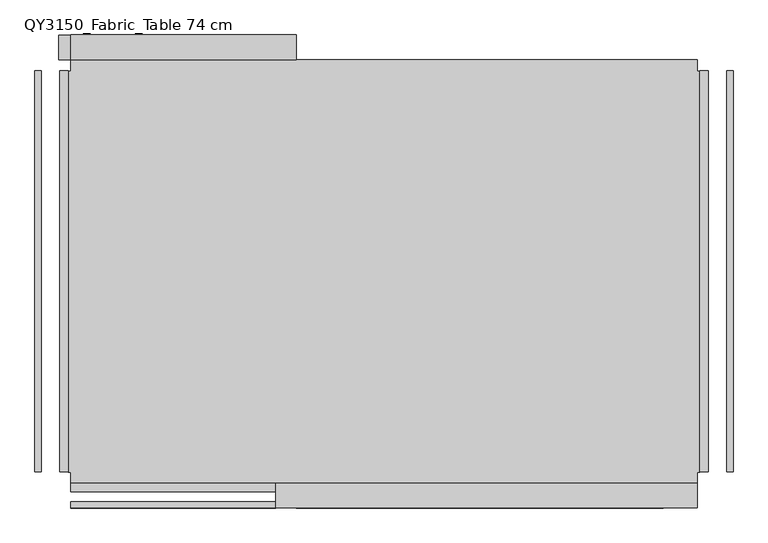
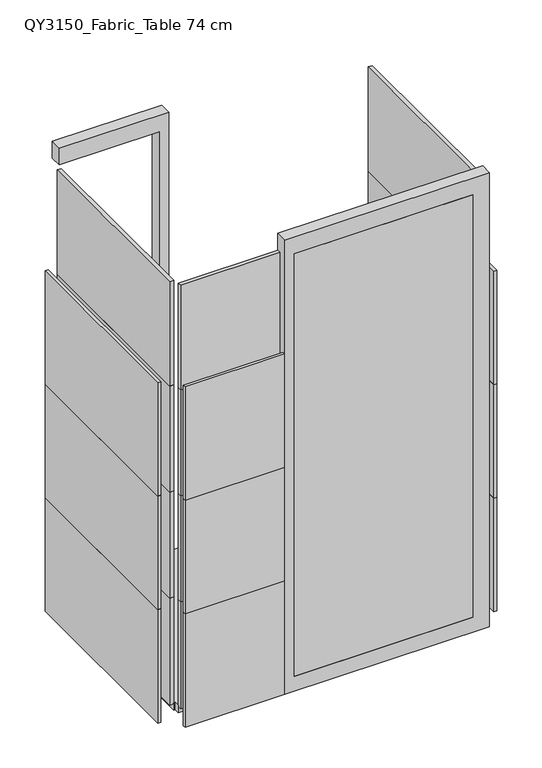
"""IFC4 building model written with IfcOpenShell, lengths in millimetres: furniture geometry, Qyos_150 : QY3150_Fabric_Table 74 cm."""

from ifc_helpers import new_model, si_unit, frame, origin, place, context, project, spatial, polyline, outline, extrude, source, transform, mapped, element, save


def qy3150_fabric_table_74_cm_9a3328c8(model_context):
    return source(origin(), model_context, "Body", "SweptSolid", [
        extrude(outline(polyline([(-607.0, 469.9956819), (-607.0, -470.0), (-647.0, -470.0), (-647.0, 469.9956819), (-607.0, 469.9956819)])), frame((0.0, 0.0, 10.0), z_axis=(0.0, 0.0, 1.0), x_axis=(1.0, 0.0, 0.0)), (0.0, 0.0, 1.0), 37.0),
        extrude(outline(polyline([(-155.0, 469.9956819), (-155.0, -470.0), (-195.0, -470.0), (-195.0, 469.9956819), (-155.0, 469.9956819)])), frame((0.0, 0.0, 10.0), z_axis=(0.0, 0.0, 1.0), x_axis=(1.0, 0.0, 0.0)), (0.0, 0.0, 1.0), 37.0),
        extrude(outline(polyline([(647.0, 469.9956819), (647.0, -470.0), (607.0, -470.0), (607.0, 469.9956819), (647.0, 469.9956819)])), frame((0.0, 0.0, 10.0), z_axis=(0.0, 0.0, 1.0), x_axis=(1.0, 0.0, 0.0)), (0.0, 0.0, 1.0), 37.0),
        extrude(outline(polyline([(2122.1, -239.9562864), (82.0, -239.9562864), (82.0, -722.5536246), (10.0, -722.5536246), (10.0, -194.9250972), (2202.1, -194.9250972), (2202.1, -695.0), (2122.1, -695.0), (2122.1, -239.9562864)])), frame((0.0, 469.9956819, 0.0), z_axis=(0.0, 1.0, 0.0), x_axis=(0.0, 0.0, 1.0)), (0.0, 0.0, 1.0), 55.0043181),
        extrude(outline(polyline([(-701.0, -445.0), (-701.0, 445.0), (-695.0, 445.0), (-695.0, 469.9956819), (695.0, 469.9956819), (695.0, 445.0), (701.0, 445.0), (701.0, -445.0), (695.0, -445.0), (695.0, -470.0), (-695.0, -470.0), (-695.0, -445.0), (-701.0, -445.0)])), frame((0.0, 0.0, 47.0), z_axis=(0.0, 0.0, 1.0), x_axis=(1.0, 0.0, 0.0)), (0.0, 0.0, 1.0), 35.0),
        extrude(outline(polyline([(619.5, -520.0), (619.5, -525.0), (-195.7844354, -525.0), (-195.7844354, -520.0), (619.5, -520.0)])), frame((0.0, 0.0, 82.0), z_axis=(0.0, 0.0, 1.0), x_axis=(1.0, 0.0, 0.0)), (0.0, 0.0, 1.0), 2040.1),
        extrude(outline(polyline([(10.0, -239.9562864), (10.0, 695.0), (2202.1, 695.0), (2202.1, -239.9562864), (10.0, -239.9562864)]), holes=[polyline([(82.0, 619.5), (82.0, -194.9250972), (2122.1, -194.9250972), (2122.1, 619.5), (82.0, 619.5)])]), frame((0.0, -525.0, 0.0), z_axis=(0.0, 1.0, 0.0), x_axis=(0.0, 0.0, 1.0)), (0.0, 0.0, 1.0), 55.0),
        extrude(outline(polyline([(720.0, 444.9498873), (720.0, -445.0024364), (701.0, -445.0024364), (701.0, 444.9498873), (720.0, 444.9498873)])), frame((0.0, 0.0, 1617.9823403), z_axis=(0.0, 0.0, 1.0), x_axis=(1.0, 0.0, 0.0)), (0.0, 0.0, 1.0), 504.1176597),
        extrude(outline(polyline([(-720.0, 445.0), (-701.0, 445.0), (-701.0, -445.0), (-720.0, -445.0), (-720.0, 445.0)])), frame((0.0, 0.0, 1617.9823403), z_axis=(0.0, 0.0, 1.0), x_axis=(1.0, 0.0, 0.0)), (0.0, 0.0, 1.0), 504.1176597),
        extrude(outline(polyline([(-695.0, -470.0), (-239.9562864, -470.0), (-239.9562864, -489.0), (-695.0, -489.0), (-695.0, -470.0)])), frame((0.0, 0.0, 1617.9823403), z_axis=(0.0, 0.0, 1.0), x_axis=(1.0, 0.0, 0.0)), (0.0, 0.0, 1.0), 504.1176597),
        extrude(outline(polyline([(720.0, 445.0), (720.0, -445.0), (701.0, -445.0), (701.0, 445.0), (720.0, 445.0)])), frame((0.0, 0.0, 1106.0116287), z_axis=(0.0, 0.0, 1.0), x_axis=(1.0, 0.0, 0.0)), (0.0, 0.0, 1.0), 511.9707116),
        extrude(outline(polyline([(-720.0, 445.0), (-701.0, 445.0), (-701.0, -445.0), (-720.0, -445.0), (-720.0, 445.0)])), frame((0.0, 0.0, 1106.0116287), z_axis=(0.0, 0.0, 1.0), x_axis=(1.0, 0.0, 0.0)), (0.0, 0.0, 1.0), 511.9707116),
        extrude(outline(polyline([(-695.0, -470.0), (-239.9562864, -470.0), (-239.9562864, -489.0), (-695.0, -489.0), (-695.0, -470.0)])), frame((0.0, 0.0, 1106.0116287), z_axis=(0.0, 0.0, 1.0), x_axis=(1.0, 0.0, 0.0)), (0.0, 0.0, 1.0), 511.9707116),
        extrude(outline(polyline([(720.0, 445.0), (720.0, -445.0), (701.0, -445.0), (701.0, 445.0), (720.0, 445.0)])), frame((0.0, 0.0, 593.9823403), z_axis=(0.0, 0.0, 1.0), x_axis=(1.0, 0.0, 0.0)), (0.0, 0.0, 1.0), 512.0292884),
        extrude(outline(polyline([(-720.0, 445.0), (-701.0, 445.0), (-701.0, -445.0), (-720.0, -445.0), (-720.0, 445.0)])), frame((0.0, 0.0, 593.9823403), z_axis=(0.0, 0.0, 1.0), x_axis=(1.0, 0.0, 0.0)), (0.0, 0.0, 1.0), 512.0292884),
        extrude(outline(polyline([(-695.0, -470.0), (-239.9562864, -470.0), (-239.9562864, -489.0), (-695.0, -489.0), (-695.0, -470.0)])), frame((0.0, 0.0, 593.9823403), z_axis=(0.0, 0.0, 1.0), x_axis=(1.0, 0.0, 0.0)), (0.0, 0.0, 1.0), 512.0292884),
        extrude(outline(polyline([(720.0, 445.0), (720.0, -445.0), (701.0, -445.0), (701.0, 445.0), (720.0, 445.0)])), frame((0.0, 0.0, 77.0), z_axis=(0.0, 0.0, 1.0), x_axis=(1.0, 0.0, 0.0)), (0.0, 0.0, 1.0), 516.9823403),
        extrude(outline(polyline([(-720.0, 445.0), (-701.0, 445.0), (-701.0, -445.0), (-720.0, -445.0), (-720.0, 445.0)])), frame((0.0, 0.0, 77.0), z_axis=(0.0, 0.0, 1.0), x_axis=(1.0, 0.0, 0.0)), (0.0, 0.0, 1.0), 516.9823403),
        extrude(outline(polyline([(-695.0, -470.0), (-239.9562864, -470.0), (-239.9562864, -489.0), (-695.0, -489.0), (-695.0, -470.0)])), frame((0.0, 0.0, 77.0), z_axis=(0.0, 0.0, 1.0), x_axis=(1.0, 0.0, 0.0)), (0.0, 0.0, 1.0), 516.9823403),
        extrude(outline(polyline([(-775.0, 445.0), (-761.0, 445.0), (-761.0, -445.0), (-775.0, -445.0), (-775.0, 445.0)])), frame((0.0, 0.0, 1106.0116287), z_axis=(0.0, 0.0, 1.0), x_axis=(1.0, 0.0, 0.0)), (0.0, 0.0, 1.0), 548.0),
        extrude(outline(polyline([(775.0, 445.0), (775.0, -445.0), (761.0, -445.0), (761.0, 445.0), (775.0, 445.0)])), frame((0.0, 0.0, 1106.0116287), z_axis=(0.0, 0.0, 1.0), x_axis=(1.0, 0.0, 0.0)), (0.0, 0.0, 1.0), 548.0),
        extrude(outline(polyline([(-239.9562864, -525.0), (-695.0, -525.0), (-695.0, -511.0), (-239.9562864, -511.0), (-239.9562864, -525.0)])), frame((0.0, 0.0, 1106.0116287), z_axis=(0.0, 0.0, 1.0), x_axis=(1.0, 0.0, 0.0)), (0.0, 0.0, 1.0), 548.0),
        extrude(outline(polyline([(-775.0, 445.0), (-761.0, 445.0), (-761.0, -445.0), (-775.0, -445.0), (-775.0, 445.0)])), frame((0.0, 0.0, 558.0116287), z_axis=(0.0, 0.0, 1.0), x_axis=(1.0, 0.0, 0.0)), (0.0, 0.0, 1.0), 548.0),
        extrude(outline(polyline([(775.0, 445.0), (775.0, -445.0), (761.0, -445.0), (761.0, 445.0), (775.0, 445.0)])), frame((0.0, 0.0, 558.0116287), z_axis=(0.0, 0.0, 1.0), x_axis=(1.0, 0.0, 0.0)), (0.0, 0.0, 1.0), 548.0),
        extrude(outline(polyline([(-239.9562864, -525.0), (-695.0, -525.0), (-695.0, -511.0), (-239.9562864, -511.0), (-239.9562864, -525.0)])), frame((0.0, 0.0, 558.0116287), z_axis=(0.0, 0.0, 1.0), x_axis=(1.0, 0.0, 0.0)), (0.0, 0.0, 1.0), 548.0),
        extrude(outline(polyline([(-775.0, 445.0), (-761.0, 445.0), (-761.0, -445.0), (-775.0, -445.0), (-775.0, 445.0)])), frame((0.0, 0.0, 10.0), z_axis=(0.0, 0.0, 1.0), x_axis=(1.0, 0.0, 0.0)), (0.0, 0.0, 1.0), 548.0116287),
        extrude(outline(polyline([(775.0, 445.0), (775.0, -445.0), (761.0, -445.0), (761.0, 445.0), (775.0, 445.0)])), frame((0.0, 0.0, 10.0), z_axis=(0.0, 0.0, 1.0), x_axis=(1.0, 0.0, 0.0)), (0.0, 0.0, 1.0), 548.0116287),
        extrude(outline(polyline([(-239.9562864, -525.0), (-695.0, -525.0), (-695.0, -511.0), (-239.9562864, -511.0), (-239.9562864, -525.0)])), frame((0.0, 0.0, 10.0), z_axis=(0.0, 0.0, 1.0), x_axis=(1.0, 0.0, 0.0)), (0.0, 0.0, 1.0), 548.0116287),
    ])


if __name__ == "__main__":
    model = new_model("IFC4")
    model_context = context("Model", 3, world=origin())
    ifc_project = project(units=[si_unit("LENGTHUNIT", "METRE", prefix="MILLI")], contexts=[model_context])
    site = spatial("IfcSite", under=ifc_project)
    building = spatial("IfcBuilding", under=site)
    placement = place(None, origin())
    qy3150_fabric_table_74_cm_shape = qy3150_fabric_table_74_cm_9a3328c8(model_context)
    element("IfcFurniture", 1, ObjectType="Qyos_150 : QY3150_Fabric_Table 74 cm", at=placement, inside=building, context=model_context, shape_type="MappedRepresentation", body=[
        mapped(qy3150_fabric_table_74_cm_shape, transform((0.0, 0.0, 0.0), x_axis=(1.0, 0.0, 0.0), y_axis=(0.0, 1.0, 0.0), z_axis=(0.0, 0.0, 1.0))),
    ])
    save(model, "model.ifc")
